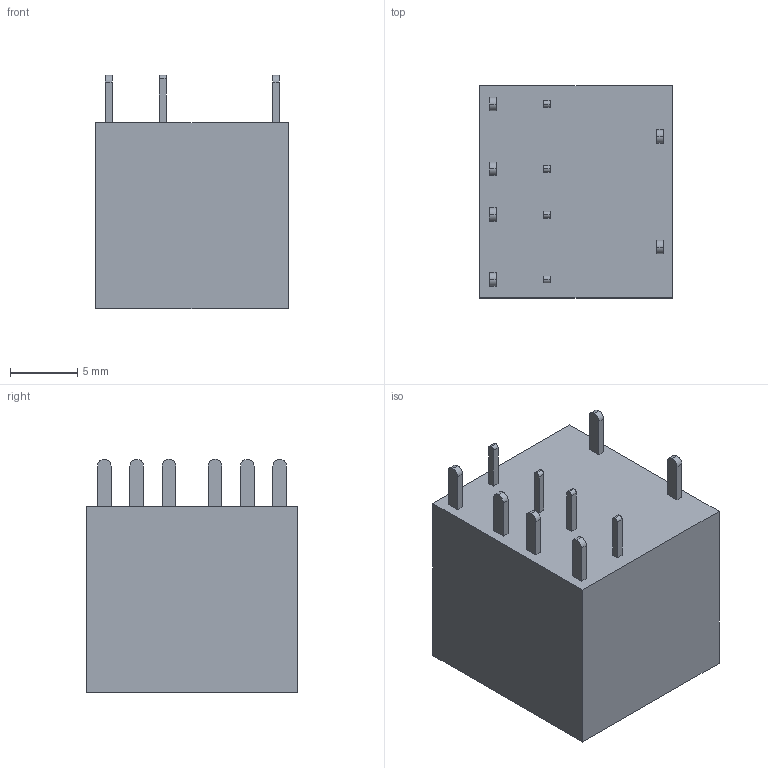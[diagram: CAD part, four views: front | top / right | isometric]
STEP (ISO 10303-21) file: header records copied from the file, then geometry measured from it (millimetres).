
FILE_DESCRIPTION(('FreeCAD Model'),'2;1');
FILE_NAME('C:/Users/Metaltex-99/Desktop/SA.stp','2020-09-01T10:20:12',( 'Engenharia Metaltex'),('Metaltex'), 'Open CASCADE STEP processor 7.3','FreeCAD','Unknown');
FILE_SCHEMA(('AUTOMOTIVE_DESIGN { 1 0 10303 214 1 1 1 1 }'));
Length unit declared in the file: millimetre
Products named in the file (1): SA
Bounding box: 14.3 x 15.7 x 17.3 mm (x, y, z)
Volume: 3111.9 mm3; surface area: 1364.8 mm2
Topology: 1 solids, 1 shells, 76 faces, 192 edges, 128 vertices
Faces by surface type: plane 56, cylinder 20
Entity records: 4853 total; most frequent: CARTESIAN_POINT 901, DIRECTION 750, LINE 496, VECTOR 496, ORIENTED_EDGE 384, PCURVE 384, DEFINITIONAL_REPRESENTATION 384, EDGE_CURVE 192
